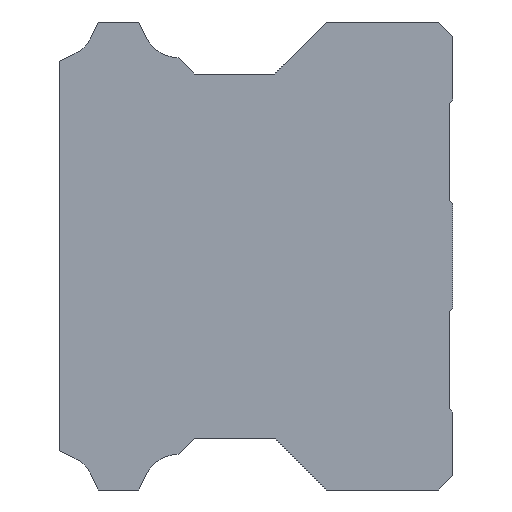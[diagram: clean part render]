
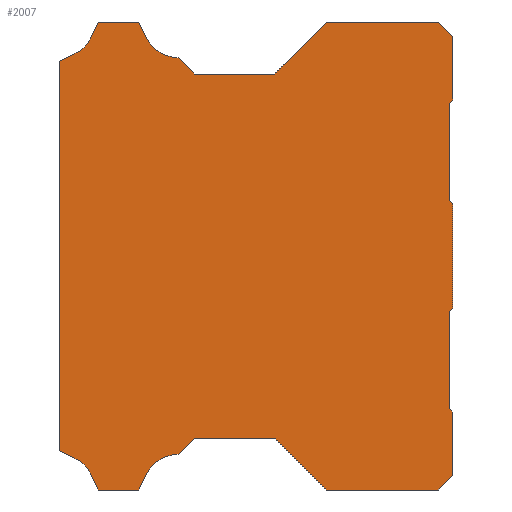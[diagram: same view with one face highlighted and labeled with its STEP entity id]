
A CAD part, left-side view. The second image highlights one B-rep face of the part: STEP entity #2007.
In plain terms, the highlighted planar face has unit normal (-1, 0, 0).
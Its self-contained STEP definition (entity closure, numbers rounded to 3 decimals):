
#112=PLANE('',#2221);
#140=CIRCLE('',#2145,0.5);
#142=CIRCLE('',#2153,0.5);
#143=CIRCLE('',#2157,4.9);
#164=CIRCLE('',#2196,4.9);
#166=CIRCLE('',#2202,4.9);
#177=CIRCLE('',#2217,4.9);
#628=ORIENTED_EDGE('',*,*,#973,.F.);
#629=ORIENTED_EDGE('',*,*,#1086,.F.);
#630=ORIENTED_EDGE('',*,*,#1083,.T.);
#631=ORIENTED_EDGE('',*,*,#1080,.F.);
#632=ORIENTED_EDGE('',*,*,#1077,.F.);
#633=ORIENTED_EDGE('',*,*,#1065,.F.);
#634=ORIENTED_EDGE('',*,*,#1062,.T.);
#635=ORIENTED_EDGE('',*,*,#1059,.F.);
#636=ORIENTED_EDGE('',*,*,#1056,.F.);
#637=ORIENTED_EDGE('',*,*,#1053,.F.);
#638=ORIENTED_EDGE('',*,*,#1050,.T.);
#639=ORIENTED_EDGE('',*,*,#1047,.F.);
#640=ORIENTED_EDGE('',*,*,#1044,.F.);
#641=ORIENTED_EDGE('',*,*,#1041,.F.);
#642=ORIENTED_EDGE('',*,*,#1038,.F.);
#643=ORIENTED_EDGE('',*,*,#1035,.F.);
#644=ORIENTED_EDGE('',*,*,#1032,.F.);
#645=ORIENTED_EDGE('',*,*,#1029,.F.);
#646=ORIENTED_EDGE('',*,*,#1019,.F.);
#647=ORIENTED_EDGE('',*,*,#972,.T.);
#648=ORIENTED_EDGE('',*,*,#968,.F.);
#649=ORIENTED_EDGE('',*,*,#965,.F.);
#650=ORIENTED_EDGE('',*,*,#962,.F.);
#651=ORIENTED_EDGE('',*,*,#960,.T.);
#652=ORIENTED_EDGE('',*,*,#1013,.F.);
#653=ORIENTED_EDGE('',*,*,#1001,.F.);
#654=ORIENTED_EDGE('',*,*,#998,.F.);
#655=ORIENTED_EDGE('',*,*,#995,.F.);
#656=ORIENTED_EDGE('',*,*,#992,.F.);
#657=ORIENTED_EDGE('',*,*,#989,.F.);
#658=ORIENTED_EDGE('',*,*,#986,.F.);
#659=ORIENTED_EDGE('',*,*,#983,.F.);
#660=ORIENTED_EDGE('',*,*,#980,.T.);
#661=ORIENTED_EDGE('',*,*,#977,.F.);
#960=EDGE_CURVE('',#1215,#1217,#140,.T.);
#962=EDGE_CURVE('',#1215,#1219,#1367,.T.);
#965=EDGE_CURVE('',#1219,#1221,#1369,.T.);
#968=EDGE_CURVE('',#1221,#1223,#1371,.T.);
#972=EDGE_CURVE('',#1225,#1223,#142,.T.);
#973=EDGE_CURVE('',#1226,#1227,#1374,.T.);
#977=EDGE_CURVE('',#1227,#1230,#1378,.T.);
#980=EDGE_CURVE('',#1232,#1230,#143,.T.);
#983=EDGE_CURVE('',#1232,#1234,#1382,.T.);
#986=EDGE_CURVE('',#1234,#1236,#1385,.T.);
#989=EDGE_CURVE('',#1236,#1238,#1388,.T.);
#992=EDGE_CURVE('',#1238,#1240,#1391,.T.);
#995=EDGE_CURVE('',#1240,#1242,#1394,.T.);
#998=EDGE_CURVE('',#1242,#1244,#1397,.T.);
#1001=EDGE_CURVE('',#1244,#1246,#1400,.T.);
#1013=EDGE_CURVE('',#1246,#1217,#1404,.T.);
#1019=EDGE_CURVE('',#1225,#1248,#1406,.T.);
#1029=EDGE_CURVE('',#1248,#1250,#1409,.T.);
#1032=EDGE_CURVE('',#1250,#1252,#1412,.T.);
#1035=EDGE_CURVE('',#1252,#1254,#1415,.T.);
#1038=EDGE_CURVE('',#1254,#1256,#1418,.T.);
#1041=EDGE_CURVE('',#1256,#1258,#1421,.T.);
#1044=EDGE_CURVE('',#1258,#1260,#1424,.T.);
#1047=EDGE_CURVE('',#1260,#1262,#1427,.T.);
#1050=EDGE_CURVE('',#1264,#1262,#164,.T.);
#1053=EDGE_CURVE('',#1264,#1266,#1431,.T.);
#1056=EDGE_CURVE('',#1266,#1268,#1434,.T.);
#1059=EDGE_CURVE('',#1268,#1270,#1437,.T.);
#1062=EDGE_CURVE('',#1272,#1270,#166,.T.);
#1065=EDGE_CURVE('',#1272,#1274,#1441,.T.);
#1077=EDGE_CURVE('',#1274,#1285,#1444,.T.);
#1080=EDGE_CURVE('',#1285,#1287,#1447,.T.);
#1083=EDGE_CURVE('',#1289,#1287,#177,.T.);
#1086=EDGE_CURVE('',#1289,#1226,#1451,.T.);
#1215=VERTEX_POINT('',#3251);
#1217=VERTEX_POINT('',#3258);
#1219=VERTEX_POINT('',#3264);
#1221=VERTEX_POINT('',#3270);
#1223=VERTEX_POINT('',#3276);
#1225=VERTEX_POINT('',#3281);
#1226=VERTEX_POINT('',#3289);
#1227=VERTEX_POINT('',#3290);
#1230=VERTEX_POINT('',#3298);
#1232=VERTEX_POINT('',#3304);
#1234=VERTEX_POINT('',#3310);
#1236=VERTEX_POINT('',#3316);
#1238=VERTEX_POINT('',#3322);
#1240=VERTEX_POINT('',#3328);
#1242=VERTEX_POINT('',#3334);
#1244=VERTEX_POINT('',#3340);
#1246=VERTEX_POINT('',#3346);
#1248=VERTEX_POINT('',#3369);
#1250=VERTEX_POINT('',#3382);
#1252=VERTEX_POINT('',#3388);
#1254=VERTEX_POINT('',#3394);
#1256=VERTEX_POINT('',#3400);
#1258=VERTEX_POINT('',#3406);
#1260=VERTEX_POINT('',#3412);
#1262=VERTEX_POINT('',#3418);
#1264=VERTEX_POINT('',#3424);
#1266=VERTEX_POINT('',#3430);
#1268=VERTEX_POINT('',#3436);
#1270=VERTEX_POINT('',#3442);
#1272=VERTEX_POINT('',#3448);
#1274=VERTEX_POINT('',#3454);
#1285=VERTEX_POINT('',#3478);
#1287=VERTEX_POINT('',#3484);
#1289=VERTEX_POINT('',#3490);
#1367=LINE('',#3263,#1511);
#1369=LINE('',#3269,#1513);
#1371=LINE('',#3275,#1515);
#1374=LINE('',#3288,#1518);
#1378=LINE('',#3297,#1522);
#1382=LINE('',#3309,#1526);
#1385=LINE('',#3315,#1529);
#1388=LINE('',#3321,#1532);
#1391=LINE('',#3327,#1535);
#1394=LINE('',#3333,#1538);
#1397=LINE('',#3339,#1541);
#1400=LINE('',#3345,#1544);
#1404=LINE('',#3360,#1548);
#1406=LINE('',#3368,#1550);
#1409=LINE('',#3381,#1553);
#1412=LINE('',#3387,#1556);
#1415=LINE('',#3393,#1559);
#1418=LINE('',#3399,#1562);
#1421=LINE('',#3405,#1565);
#1424=LINE('',#3411,#1568);
#1427=LINE('',#3417,#1571);
#1431=LINE('',#3429,#1575);
#1434=LINE('',#3435,#1578);
#1437=LINE('',#3441,#1581);
#1441=LINE('',#3453,#1585);
#1444=LINE('',#3477,#1588);
#1447=LINE('',#3483,#1591);
#1451=LINE('',#3495,#1595);
#1511=VECTOR('',#2527,1000.);
#1513=VECTOR('',#2533,1000.);
#1515=VECTOR('',#2539,1000.);
#1518=VECTOR('',#2548,1000.);
#1522=VECTOR('',#2554,1000.);
#1526=VECTOR('',#2566,1000.);
#1529=VECTOR('',#2571,1000.);
#1532=VECTOR('',#2576,1000.);
#1535=VECTOR('',#2581,1000.);
#1538=VECTOR('',#2586,1000.);
#1541=VECTOR('',#2591,1000.);
#1544=VECTOR('',#2596,1000.);
#1548=VECTOR('',#2618,1000.);
#1550=VECTOR('',#2632,1000.);
#1553=VECTOR('',#2651,1000.);
#1556=VECTOR('',#2656,1000.);
#1559=VECTOR('',#2661,1000.);
#1562=VECTOR('',#2666,1000.);
#1565=VECTOR('',#2671,1000.);
#1568=VECTOR('',#2676,1000.);
#1571=VECTOR('',#2681,1000.);
#1575=VECTOR('',#2693,1000.);
#1578=VECTOR('',#2698,1000.);
#1581=VECTOR('',#2703,1000.);
#1585=VECTOR('',#2715,1000.);
#1588=VECTOR('',#2738,1000.);
#1591=VECTOR('',#2743,1000.);
#1595=VECTOR('',#2755,1000.);
#1686=EDGE_LOOP('',(#628,#629,#630,#631,#632,#633,#634,#635,#636,#637,#638,
#639,#640,#641,#642,#643,#644,#645,#646,#647,#648,#649,#650,#651,#652,#653,
#654,#655,#656,#657,#658,#659,#660,#661));
#1830=FACE_BOUND('',#1686,.T.);
#2007=ADVANCED_FACE('',(#1830),#112,.F.);
#2145=AXIS2_PLACEMENT_3D('',#3259,#2521,#2522);
#2153=AXIS2_PLACEMENT_3D('',#3286,#2544,#2545);
#2157=AXIS2_PLACEMENT_3D('',#3303,#2559,#2560);
#2196=AXIS2_PLACEMENT_3D('',#3423,#2686,#2687);
#2202=AXIS2_PLACEMENT_3D('',#3447,#2708,#2709);
#2217=AXIS2_PLACEMENT_3D('',#3489,#2748,#2749);
#2221=AXIS2_PLACEMENT_3D('',#3498,#2759,#2760);
#2521=DIRECTION('',(1.,0.,0.));
#2522=DIRECTION('',(0.,0.,-1.));
#2527=DIRECTION('',(0.,-0.707,-0.707));
#2533=DIRECTION('',(0.,0.,-1.));
#2539=DIRECTION('',(0.,0.707,-0.707));
#2544=DIRECTION('',(1.,0.,0.));
#2545=DIRECTION('',(0.,0.,-1.));
#2548=DIRECTION('',(0.,-1.,0.));
#2554=DIRECTION('',(0.,-0.425,-0.905));
#2559=DIRECTION('',(1.,0.,0.));
#2560=DIRECTION('',(0.,0.,-1.));
#2566=DIRECTION('',(0.,-0.707,-0.707));
#2571=DIRECTION('',(0.,-1.,0.));
#2576=DIRECTION('',(0.,-0.707,0.707));
#2581=DIRECTION('',(0.,-1.,0.));
#2586=DIRECTION('',(0.,-0.707,-0.707));
#2591=DIRECTION('',(0.,0.,-1.));
#2596=DIRECTION('',(0.,0.707,-0.707));
#2618=DIRECTION('',(0.,0.,-1.));
#2632=DIRECTION('',(0.,0.,-1.));
#2651=DIRECTION('',(0.,-0.707,-0.707));
#2656=DIRECTION('',(0.,0.,-1.));
#2661=DIRECTION('',(0.,0.707,-0.707));
#2666=DIRECTION('',(0.,1.,0.));
#2671=DIRECTION('',(0.,0.707,0.707));
#2676=DIRECTION('',(0.,1.,0.));
#2681=DIRECTION('',(0.,0.707,-0.707));
#2686=DIRECTION('',(1.,0.,0.));
#2687=DIRECTION('',(0.,0.,-1.));
#2693=DIRECTION('',(0.,0.425,-0.905));
#2698=DIRECTION('',(0.,1.,0.));
#2703=DIRECTION('',(0.,0.425,0.905));
#2708=DIRECTION('',(1.,0.,0.));
#2709=DIRECTION('',(0.,0.,-1.));
#2715=DIRECTION('',(0.,0.905,0.425));
#2738=DIRECTION('',(0.,0.,1.));
#2743=DIRECTION('',(0.,-0.905,0.425));
#2748=DIRECTION('',(1.,0.,0.));
#2749=DIRECTION('',(0.,0.,-1.));
#2755=DIRECTION('',(0.,-0.425,0.905));
#2759=DIRECTION('',(1.,0.,0.));
#2760=DIRECTION('',(0.,0.,-1.));
#3251=CARTESIAN_POINT('',(-35.,0.354,7.354));
#3258=CARTESIAN_POINT('',(-35.,0.5,7.707));
#3259=CARTESIAN_POINT('',(-35.,0.,7.707));
#3263=CARTESIAN_POINT('',(-35.,0.354,7.354));
#3264=CARTESIAN_POINT('',(-35.,0.,7.));
#3269=CARTESIAN_POINT('',(-35.,0.,7.));
#3270=CARTESIAN_POINT('',(-35.,0.,-7.));
#3275=CARTESIAN_POINT('',(-35.,0.,-7.));
#3276=CARTESIAN_POINT('',(-35.,0.354,-7.354));
#3281=CARTESIAN_POINT('',(-35.,0.5,-7.707));
#3286=CARTESIAN_POINT('',(-35.,0.,-7.707));
#3288=CARTESIAN_POINT('',(-35.,47.73,31.5));
#3289=CARTESIAN_POINT('',(-35.,47.73,31.5));
#3290=CARTESIAN_POINT('',(-35.,42.271,31.5));
#3297=CARTESIAN_POINT('',(-35.,42.271,31.5));
#3298=CARTESIAN_POINT('',(-35.,41.338,29.514));
#3303=CARTESIAN_POINT('',(-35.,36.903,31.597));
#3304=CARTESIAN_POINT('',(-35.,36.998,26.698));
#3309=CARTESIAN_POINT('',(-35.,36.998,26.698));
#3310=CARTESIAN_POINT('',(-35.,34.8,24.5));
#3315=CARTESIAN_POINT('',(-35.,34.8,24.5));
#3316=CARTESIAN_POINT('',(-35.,24.,24.5));
#3321=CARTESIAN_POINT('',(-35.,24.,24.5));
#3322=CARTESIAN_POINT('',(-35.,17.,31.5));
#3327=CARTESIAN_POINT('',(-35.,17.,31.5));
#3328=CARTESIAN_POINT('',(-35.,2.,31.5));
#3333=CARTESIAN_POINT('',(-35.,2.,31.5));
#3334=CARTESIAN_POINT('',(-35.,0.,29.5));
#3339=CARTESIAN_POINT('',(-35.,0.,29.5));
#3340=CARTESIAN_POINT('',(-35.,0.,21.));
#3345=CARTESIAN_POINT('',(-35.,0.,21.));
#3346=CARTESIAN_POINT('',(-35.,0.5,20.5));
#3360=CARTESIAN_POINT('',(-35.,0.5,20.5));
#3368=CARTESIAN_POINT('',(-35.,0.5,-7.707));
#3369=CARTESIAN_POINT('',(-35.,0.5,-20.5));
#3381=CARTESIAN_POINT('',(-35.,0.5,-20.5));
#3382=CARTESIAN_POINT('',(-35.,0.,-21.));
#3387=CARTESIAN_POINT('',(-35.,0.,-21.));
#3388=CARTESIAN_POINT('',(-35.,0.,-29.5));
#3393=CARTESIAN_POINT('',(-35.,0.,-29.5));
#3394=CARTESIAN_POINT('',(-35.,2.,-31.5));
#3399=CARTESIAN_POINT('',(-35.,2.,-31.5));
#3400=CARTESIAN_POINT('',(-35.,17.,-31.5));
#3405=CARTESIAN_POINT('',(-35.,17.,-31.5));
#3406=CARTESIAN_POINT('',(-35.,24.,-24.5));
#3411=CARTESIAN_POINT('',(-35.,24.,-24.5));
#3412=CARTESIAN_POINT('',(-35.,34.8,-24.5));
#3417=CARTESIAN_POINT('',(-35.,34.8,-24.5));
#3418=CARTESIAN_POINT('',(-35.,36.998,-26.698));
#3423=CARTESIAN_POINT('',(-35.,36.903,-31.597));
#3424=CARTESIAN_POINT('',(-35.,41.338,-29.514));
#3429=CARTESIAN_POINT('',(-35.,41.338,-29.514));
#3430=CARTESIAN_POINT('',(-35.,42.271,-31.5));
#3435=CARTESIAN_POINT('',(-35.,42.271,-31.5));
#3436=CARTESIAN_POINT('',(-35.,47.73,-31.5));
#3441=CARTESIAN_POINT('',(-35.,47.73,-31.5));
#3442=CARTESIAN_POINT('',(-35.,48.661,-29.516));
#3447=CARTESIAN_POINT('',(-35.,53.097,-31.597));
#3448=CARTESIAN_POINT('',(-35.,51.016,-27.161));
#3453=CARTESIAN_POINT('',(-35.,51.016,-27.161));
#3454=CARTESIAN_POINT('',(-35.,53.,-26.23));
#3477=CARTESIAN_POINT('',(-35.,53.,-26.23));
#3478=CARTESIAN_POINT('',(-35.,53.,26.23));
#3483=CARTESIAN_POINT('',(-35.,53.,26.23));
#3484=CARTESIAN_POINT('',(-35.,51.016,27.161));
#3489=CARTESIAN_POINT('',(-35.,53.097,31.597));
#3490=CARTESIAN_POINT('',(-35.,48.661,29.516));
#3495=CARTESIAN_POINT('',(-35.,48.661,29.516));
#3498=CARTESIAN_POINT('',(-35.,36.903,31.597));
